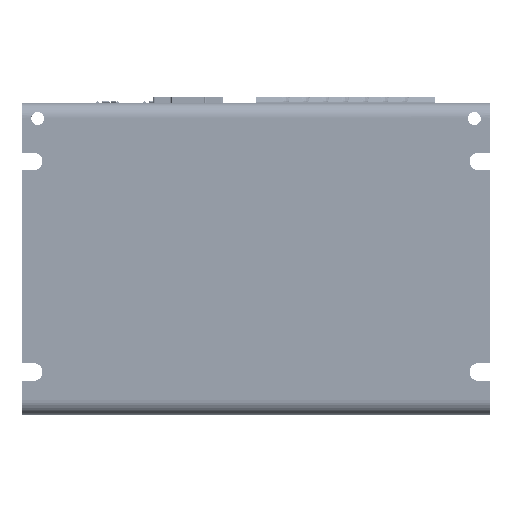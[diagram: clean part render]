
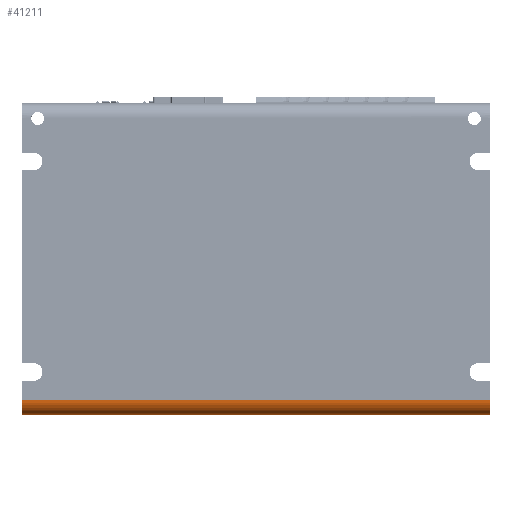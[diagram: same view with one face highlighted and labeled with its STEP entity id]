
A CAD part, left-side view. The second image highlights one B-rep face of the part: STEP entity #41211.
In plain terms, the highlighted cylindrical face has radius 3.8 mm (diameter 7.6 mm), a partial arc.
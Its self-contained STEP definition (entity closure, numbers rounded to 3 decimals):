
#4256 = EDGE_CURVE ( 'NONE', #197720, #230007, #194159, .T. ) ;
#25464 = CIRCLE ( 'NONE', #232048, 3.8 ) ;
#26058 = DIRECTION ( 'NONE',  ( 0., -1., 0. ) ) ;
#41211 = ADVANCED_FACE ( 'NONE', ( #49479 ), #300782, .T. ) ;
#44163 = EDGE_CURVE ( 'NONE', #165443, #197720, #82019, .T. ) ;
#49479 = FACE_OUTER_BOUND ( 'NONE', #301824, .T. ) ;
#51076 = CARTESIAN_POINT ( 'NONE',  ( -27.239, -62.5, -42.2 ) ) ;
#51523 = VERTEX_POINT ( 'NONE', #351896 ) ;
#54034 = DIRECTION ( 'NONE',  ( 0., 1., 0. ) ) ;
#65830 = EDGE_CURVE ( 'NONE', #51523, #165443, #25464, .T. ) ;
#82019 = LINE ( 'NONE', #275854, #350416 ) ;
#86296 = DIRECTION ( 'NONE',  ( 0., 0., 1. ) ) ;
#108821 = LINE ( 'NONE', #191406, #182659 ) ;
#112590 = AXIS2_PLACEMENT_3D ( 'NONE', #275610, #26058, #162585 ) ;
#114490 = ORIENTED_EDGE ( 'NONE', *, *, #44163, .F. ) ;
#117754 = ORIENTED_EDGE ( 'NONE', *, *, #4256, .F. ) ;
#146886 = EDGE_CURVE ( 'NONE', #230007, #51523, #108821, .T. ) ;
#148210 = AXIS2_PLACEMENT_3D ( 'NONE', #51076, #162423, #218075 ) ;
#162423 = DIRECTION ( 'NONE',  ( 0., -1., 0. ) ) ;
#162585 = DIRECTION ( 'NONE',  ( 0., 0., -1. ) ) ;
#165443 = VERTEX_POINT ( 'NONE', #217229 ) ;
#182659 = VECTOR ( 'NONE', #186082, 1000. ) ;
#186082 = DIRECTION ( 'NONE',  ( 0., 1., 0. ) ) ;
#191406 = CARTESIAN_POINT ( 'NONE',  ( -27.239, 57.5, -46. ) ) ;
#194159 = CIRCLE ( 'NONE', #148210, 3.8 ) ;
#197720 = VERTEX_POINT ( 'NONE', #252079 ) ;
#217229 = CARTESIAN_POINT ( 'NONE',  ( -31.039, 57.5, -42.2 ) ) ;
#218075 = DIRECTION ( 'NONE',  ( 0., 0., 1. ) ) ;
#220092 = CARTESIAN_POINT ( 'NONE',  ( -27.239, -62.5, -46. ) ) ;
#230007 = VERTEX_POINT ( 'NONE', #220092 ) ;
#232048 = AXIS2_PLACEMENT_3D ( 'NONE', #332296, #54034, #86296 ) ;
#252079 = CARTESIAN_POINT ( 'NONE',  ( -31.039, -62.5, -42.2 ) ) ;
#268150 = ORIENTED_EDGE ( 'NONE', *, *, #146886, .F. ) ;
#275610 = CARTESIAN_POINT ( 'NONE',  ( -27.239, 57.5, -42.2 ) ) ;
#275854 = CARTESIAN_POINT ( 'NONE',  ( -31.039, 57.5, -42.2 ) ) ;
#282131 = ORIENTED_EDGE ( 'NONE', *, *, #65830, .F. ) ;
#300782 = CYLINDRICAL_SURFACE ( 'NONE', #112590, 3.8 ) ;
#301824 = EDGE_LOOP ( 'NONE', ( #282131, #268150, #117754, #114490 ) ) ;
#304554 = DIRECTION ( 'NONE',  ( 0., -1., 0. ) ) ;
#332296 = CARTESIAN_POINT ( 'NONE',  ( -27.239, 57.5, -42.2 ) ) ;
#350416 = VECTOR ( 'NONE', #304554, 1000. ) ;
#351896 = CARTESIAN_POINT ( 'NONE',  ( -27.239, 57.5, -46. ) ) ;
